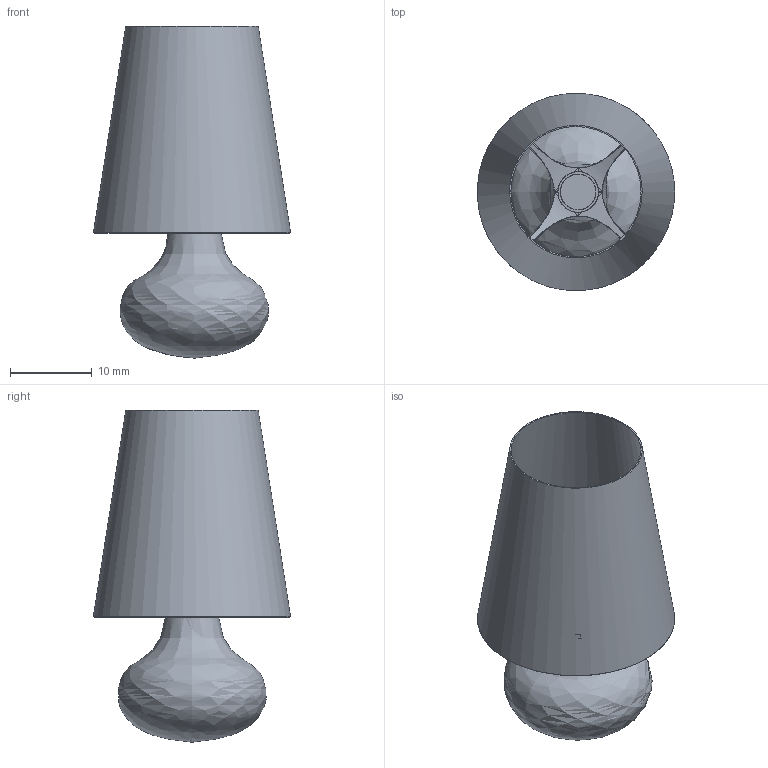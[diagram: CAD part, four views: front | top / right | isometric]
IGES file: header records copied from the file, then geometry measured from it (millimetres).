
Global section: file name: D:\3ddFactory\3D_Kartell\Ex-novo_3dd\9100\Cindy_3d_Ferruccio Laviani_Kartell.igs; native system: Rhinoceros ( Mar 10 2014 ); preprocessor: Trout Lake IGES 012 Mar 10 2014; date: 180215.102640; units: millimetre
Bounding box: 24.16 x 24.17 x 40.68 mm (x, y, z)
Surface area: 4445.5 mm2 (no closed solid volume)
Topology: 0 solids, 0 shells, 33 faces, 141 edges, 123 vertices
Faces by surface type: bspline 33
